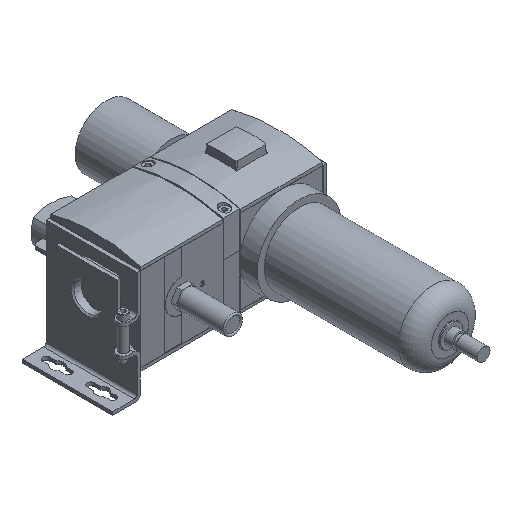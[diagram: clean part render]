
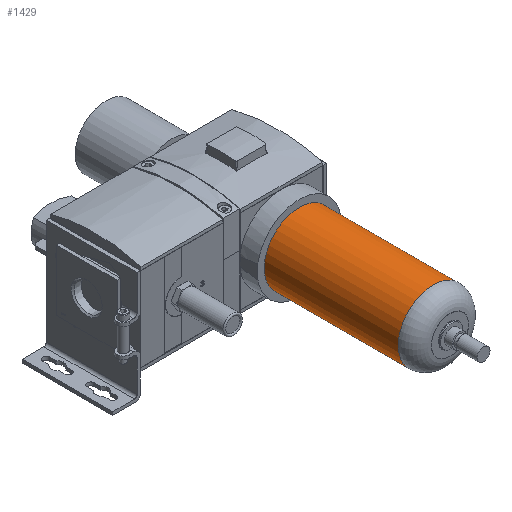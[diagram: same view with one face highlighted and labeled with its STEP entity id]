
A CAD part, isometric view. The second image highlights one B-rep face of the part: STEP entity #1429.
In plain terms, the highlighted cylindrical face has radius 31.75 mm (diameter 63.5 mm), a full revolution.
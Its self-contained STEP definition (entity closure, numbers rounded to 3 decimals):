
#1429 = ADVANCED_FACE( '', ( #3615, #3616 ), #3617, .T. );
#3615 = FACE_OUTER_BOUND( '', #6910, .T. );
#3616 = FACE_OUTER_BOUND( '', #6911, .T. );
#3617 = CYLINDRICAL_SURFACE( '', #6912, 31.75 );
#6910 = EDGE_LOOP( '', ( #10386 ) );
#6911 = EDGE_LOOP( '', ( #10387 ) );
#6912 = AXIS2_PLACEMENT_3D( '', #10388, #10389, #10390 );
#10386 = ORIENTED_EDGE( '', *, *, #19048, .F. );
#10387 = ORIENTED_EDGE( '', *, *, #19049, .T. );
#10388 = CARTESIAN_POINT( '', ( 0., -136.7, 0. ) );
#10389 = DIRECTION( '', ( 0., 1., 0. ) );
#10390 = DIRECTION( '', ( 0., 0., -1. ) );
#19048 = EDGE_CURVE( '', #22580, #22580, #22581, .T. );
#19049 = EDGE_CURVE( '', #22582, #22582, #22583, .T. );
#22580 = VERTEX_POINT( '', #27664 );
#22581 = CIRCLE( '', #27665, 31.75 );
#22582 = VERTEX_POINT( '', #27666 );
#22583 = CIRCLE( '', #27667, 31.75 );
#27664 = CARTESIAN_POINT( '', ( 0., -121.1, -31.75 ) );
#27665 = AXIS2_PLACEMENT_3D( '', #34491, #34492, #34493 );
#27666 = CARTESIAN_POINT( '', ( 0., 0., -31.75 ) );
#27667 = AXIS2_PLACEMENT_3D( '', #34494, #34495, #34496 );
#34491 = CARTESIAN_POINT( '', ( 0., -121.1, 0. ) );
#34492 = DIRECTION( '', ( 0., -1., 0. ) );
#34493 = DIRECTION( '', ( 0., 0., -1. ) );
#34494 = CARTESIAN_POINT( '', ( 0., 0., 0. ) );
#34495 = DIRECTION( '', ( 0., -1., 0. ) );
#34496 = DIRECTION( '', ( 0., 0., -1. ) );
